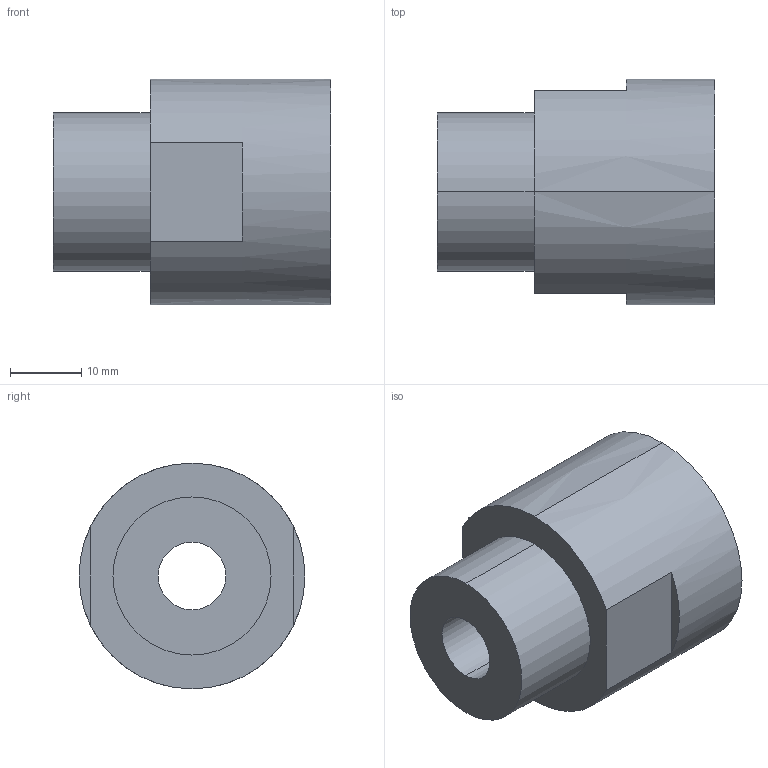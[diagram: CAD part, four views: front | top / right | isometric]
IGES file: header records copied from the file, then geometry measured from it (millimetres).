
Start section: SolidWorks IGES file using analytic representation for surfaces
Global section: file name: S:\Product Visuals\FILES FOR PUBLICATION\SOLID MODELS FOR PUBLICATION\30\5\6\n-(female-npt)\7\fitting-fnpt-06.IGS; native system: SolidWorks 2012; preprocessor: SolidWorks 2012; author: rachel.dressel; date: 121112.162108; units: inch
Bounding box: 39.01 x 31.75 x 31.75 mm (x, y, z)
Volume: 20586.9 mm3; surface area: 6358.7 mm2
Topology: 1 solids, 1 shells, 16 faces, 36 edges, 24 vertices
Faces by surface type: revolution 8, plane 8
